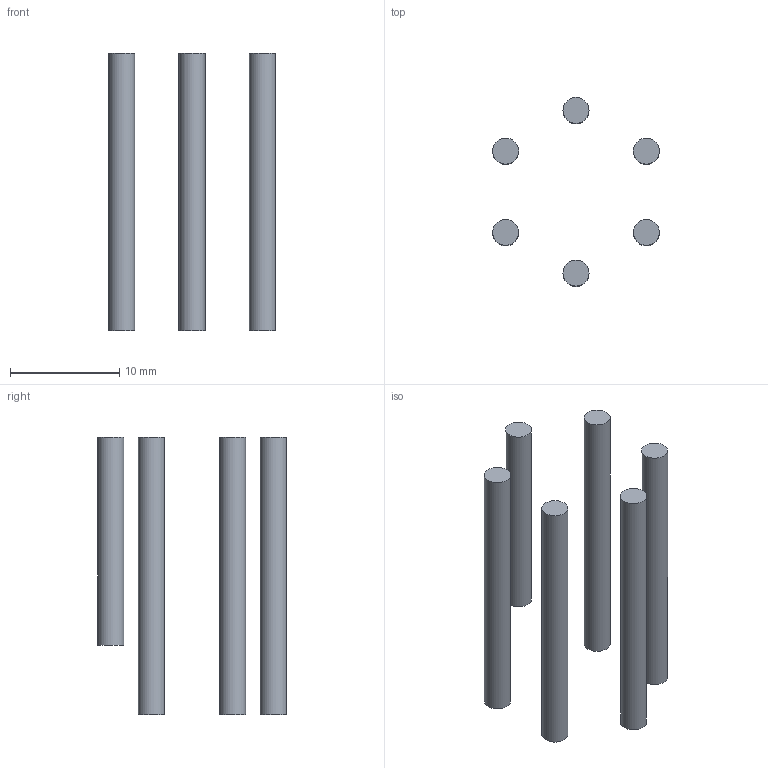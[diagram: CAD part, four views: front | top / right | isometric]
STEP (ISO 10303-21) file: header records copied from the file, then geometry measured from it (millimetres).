
FILE_DESCRIPTION(/* description */ (''),/* implementation_level */ '2;1');
FILE_NAME(/* name */ 'D:/Documents/Dr. Chen''s Project/URSA/Parametric Pump/Step Files/Pins.step',/* time_stamp */ '2020-06-19T13:17:46-08:00',/* author */ (''),/* organization */ (''),/* preprocessor_version */ 'ST-DEVELOPER v18.1',/* originating_system */ 'Autodesk Translation Framework v9.3.0.1241',/* authorisation */ '');
FILE_SCHEMA (('AUTOMOTIVE_DESIGN { 1 0 10303 214 3 1 1 }'));
Length unit declared in the file: millimetre
Products named in the file (1): Pins
Bounding box: 15.29 x 17.29 x 25.4 mm (x, y, z)
Volume: 653.9 mm3; surface area: 1149.2 mm2
Topology: 6 solids, 6 shells, 18 faces, 18 edges, 12 vertices
Faces by surface type: plane 12, cylinder 6
Full cylindrical faces by diameter (mm): 2.388 x6
Entity records: 362 total; most frequent: DIRECTION 68, CARTESIAN_POINT 49, ORIENTED_EDGE 36, AXIS2_PLACEMENT_3D 31, FACE_OUTER_BOUND 18, EDGE_LOOP 18, EDGE_CURVE 18, ADVANCED_FACE 18
